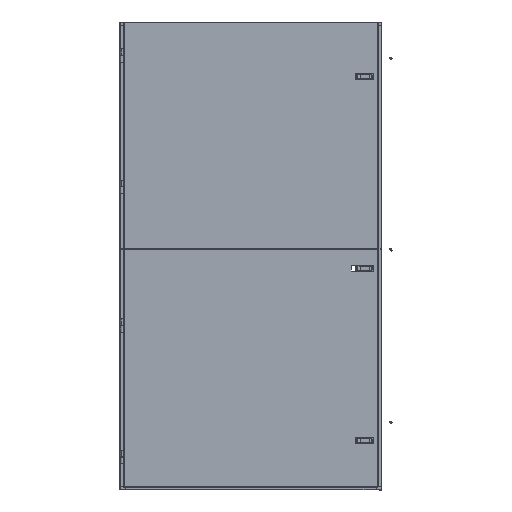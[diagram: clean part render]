
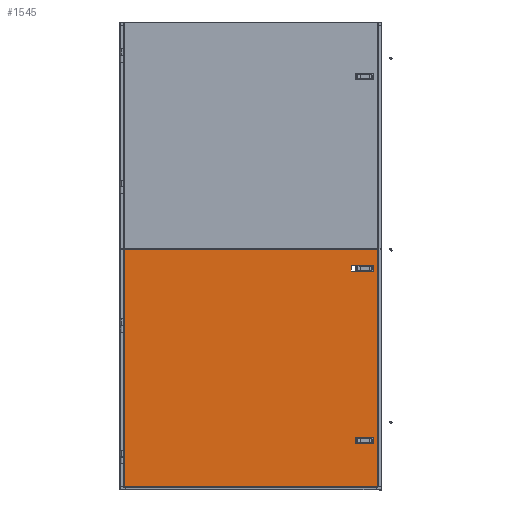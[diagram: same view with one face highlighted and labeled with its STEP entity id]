
A CAD part, top view. The second image highlights one B-rep face of the part: STEP entity #1545.
In plain terms, the highlighted planar face has unit normal (0, 0, -1).
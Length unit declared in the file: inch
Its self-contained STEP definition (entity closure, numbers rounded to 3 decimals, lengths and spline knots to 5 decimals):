
#378 = CARTESIAN_POINT ( 'NONE',  ( 50.10186, 9.99551, 0. ) ) ;
#1157 = EDGE_CURVE ( 'NONE', #18253, #70725, #34404, .T. ) ;
#1538 = CARTESIAN_POINT ( 'NONE',  ( 53.16186, 41.49551, 0. ) ) ;
#1545 = ADVANCED_FACE ( 'NONE', ( #20573, #28443, #61732 ), #71578, .F. ) ;
#1572 = EDGE_CURVE ( 'NONE', #38215, #51061, #25832, .T. ) ;
#2636 = LINE ( 'NONE', #65085, #61912 ) ;
#3431 = ORIENTED_EDGE ( 'NONE', *, *, #13614, .F. ) ;
#3580 = VECTOR ( 'NONE', #44733, 39.37008 ) ;
#3993 = DIRECTION ( 'NONE',  ( 0., -1., 0. ) ) ;
#6607 = CARTESIAN_POINT ( 'NONE',  ( 49.21186, 41.49551, 0. ) ) ;
#7187 = VERTEX_POINT ( 'NONE', #60226 ) ;
#7846 = VECTOR ( 'NONE', #15460, 39.37008 ) ;
#8475 = ORIENTED_EDGE ( 'NONE', *, *, #60444, .F. ) ;
#8810 = EDGE_LOOP ( 'NONE', ( #44716, #3431, #69436, #48530 ) ) ;
#9160 = CARTESIAN_POINT ( 'NONE',  ( 50.10186, 8.99551, 0. ) ) ;
#11639 = LINE ( 'NONE', #20142, #39571 ) ;
#11838 = DIRECTION ( 'NONE',  ( 0., 1., 0. ) ) ;
#12256 = CARTESIAN_POINT ( 'NONE',  ( 49.21186, 40.49551, 0. ) ) ;
#12731 = VERTEX_POINT ( 'NONE', #20865 ) ;
#12878 = CARTESIAN_POINT ( 'NONE',  ( 54.15884, 44.41063, 0. ) ) ;
#13614 = EDGE_CURVE ( 'NONE', #12731, #69854, #17370, .T. ) ;
#14889 = CARTESIAN_POINT ( 'NONE',  ( 54.07396, 1.08038, 0. ) ) ;
#14944 = ORIENTED_EDGE ( 'NONE', *, *, #1572, .F. ) ;
#15460 = DIRECTION ( 'NONE',  ( 0., 1., 0. ) ) ;
#16102 = VECTOR ( 'NONE', #36923, 39.37008 ) ;
#17333 = CARTESIAN_POINT ( 'NONE',  ( 54.15884, 1.08038, 0. ) ) ;
#17370 = LINE ( 'NONE', #17333, #45286 ) ;
#17460 = DIRECTION ( 'NONE',  ( 0., -1., 0. ) ) ;
#18206 = LINE ( 'NONE', #33542, #3580 ) ;
#18253 = VERTEX_POINT ( 'NONE', #60703 ) ;
#19075 = EDGE_CURVE ( 'NONE', #32967, #38215, #22585, .T. ) ;
#19429 = VECTOR ( 'NONE', #29599, 39.37008 ) ;
#19924 = CARTESIAN_POINT ( 'NONE',  ( 53.16186, 41.49551, 0. ) ) ;
#20142 = CARTESIAN_POINT ( 'NONE',  ( 7.77491, 0.99551, 0. ) ) ;
#20573 = FACE_OUTER_BOUND ( 'NONE', #8810, .T. ) ;
#20865 = CARTESIAN_POINT ( 'NONE',  ( 7.77491, 1.08038, 0. ) ) ;
#21706 = ORIENTED_EDGE ( 'NONE', *, *, #1157, .F. ) ;
#22585 = LINE ( 'NONE', #49110, #7846 ) ;
#22941 = DIRECTION ( 'NONE',  ( 1., 0., 0. ) ) ;
#23046 = CARTESIAN_POINT ( 'NONE',  ( 53.16186, 8.99551, 0. ) ) ;
#23918 = ORIENTED_EDGE ( 'NONE', *, *, #46603, .F. ) ;
#24292 = VERTEX_POINT ( 'NONE', #19924 ) ;
#24337 = ORIENTED_EDGE ( 'NONE', *, *, #48555, .F. ) ;
#25505 = CARTESIAN_POINT ( 'NONE',  ( 54.07396, 44.41063, 0. ) ) ;
#25832 = LINE ( 'NONE', #70365, #66959 ) ;
#27511 = VECTOR ( 'NONE', #29730, 39.37008 ) ;
#28443 = FACE_BOUND ( 'NONE', #30165, .T. ) ;
#29339 = EDGE_CURVE ( 'NONE', #51061, #59979, #32126, .T. ) ;
#29599 = DIRECTION ( 'NONE',  ( 0., -1., 0. ) ) ;
#29730 = DIRECTION ( 'NONE',  ( -1., 0., 0. ) ) ;
#30165 = EDGE_LOOP ( 'NONE', ( #8475, #34976, #21706, #24337 ) ) ;
#30340 = VECTOR ( 'NONE', #17460, 39.37008 ) ;
#31610 = DIRECTION ( 'NONE',  ( -1., 0., 0. ) ) ;
#31785 = EDGE_CURVE ( 'NONE', #61939, #67354, #44092, .T. ) ;
#32126 = LINE ( 'NONE', #23046, #30340 ) ;
#32967 = VERTEX_POINT ( 'NONE', #9160 ) ;
#33542 = CARTESIAN_POINT ( 'NONE',  ( 54.07396, 0.99551, 0. ) ) ;
#34285 = LINE ( 'NONE', #57482, #19429 ) ;
#34404 = LINE ( 'NONE', #12256, #64193 ) ;
#34728 = DIRECTION ( 'NONE',  ( 1., 0., 0. ) ) ;
#34976 = ORIENTED_EDGE ( 'NONE', *, *, #38322, .F. ) ;
#36128 = VECTOR ( 'NONE', #34728, 39.37008 ) ;
#36923 = DIRECTION ( 'NONE',  ( -1., 0., 0. ) ) ;
#38215 = VERTEX_POINT ( 'NONE', #378 ) ;
#38322 = EDGE_CURVE ( 'NONE', #70725, #24292, #47442, .T. ) ;
#39571 = VECTOR ( 'NONE', #3993, 39.37008 ) ;
#42524 = CARTESIAN_POINT ( 'NONE',  ( 53.16186, 40.49551, 0. ) ) ;
#44092 = LINE ( 'NONE', #12878, #27511 ) ;
#44716 = ORIENTED_EDGE ( 'NONE', *, *, #57049, .F. ) ;
#44733 = DIRECTION ( 'NONE',  ( 0., 1., 0. ) ) ;
#45286 = VECTOR ( 'NONE', #22941, 39.37008 ) ;
#46603 = EDGE_CURVE ( 'NONE', #59979, #32967, #2636, .T. ) ;
#47346 = CARTESIAN_POINT ( 'NONE',  ( 53.16186, 8.99551, 0. ) ) ;
#47442 = LINE ( 'NONE', #1538, #36128 ) ;
#48530 = ORIENTED_EDGE ( 'NONE', *, *, #31785, .F. ) ;
#48555 = EDGE_CURVE ( 'NONE', #7187, #18253, #60733, .T. ) ;
#49110 = CARTESIAN_POINT ( 'NONE',  ( 50.10186, 8.99551, 0. ) ) ;
#50769 = CARTESIAN_POINT ( 'NONE',  ( 7.77491, 44.41063, 0. ) ) ;
#51060 = ORIENTED_EDGE ( 'NONE', *, *, #19075, .F. ) ;
#51061 = VERTEX_POINT ( 'NONE', #55700 ) ;
#53892 = AXIS2_PLACEMENT_3D ( 'NONE', #71170, #71158, #71099 ) ;
#55700 = CARTESIAN_POINT ( 'NONE',  ( 53.16186, 9.99551, 0. ) ) ;
#57049 = EDGE_CURVE ( 'NONE', #69854, #61939, #18206, .T. ) ;
#57482 = CARTESIAN_POINT ( 'NONE',  ( 53.16186, 40.49551, 0. ) ) ;
#59979 = VERTEX_POINT ( 'NONE', #47346 ) ;
#60226 = CARTESIAN_POINT ( 'NONE',  ( 53.16186, 40.49551, 0. ) ) ;
#60444 = EDGE_CURVE ( 'NONE', #24292, #7187, #34285, .T. ) ;
#60703 = CARTESIAN_POINT ( 'NONE',  ( 49.21186, 40.49551, 0. ) ) ;
#60733 = LINE ( 'NONE', #42524, #16102 ) ;
#61732 = FACE_BOUND ( 'NONE', #62144, .T. ) ;
#61912 = VECTOR ( 'NONE', #31610, 39.37008 ) ;
#61939 = VERTEX_POINT ( 'NONE', #25505 ) ;
#62144 = EDGE_LOOP ( 'NONE', ( #14944, #51060, #23918, #69375 ) ) ;
#63552 = EDGE_CURVE ( 'NONE', #67354, #12731, #11639, .T. ) ;
#64193 = VECTOR ( 'NONE', #11838, 39.37008 ) ;
#65085 = CARTESIAN_POINT ( 'NONE',  ( 53.16186, 8.99551, 0. ) ) ;
#66959 = VECTOR ( 'NONE', #70429, 39.37008 ) ;
#67354 = VERTEX_POINT ( 'NONE', #50769 ) ;
#69375 = ORIENTED_EDGE ( 'NONE', *, *, #29339, .F. ) ;
#69436 = ORIENTED_EDGE ( 'NONE', *, *, #63552, .F. ) ;
#69854 = VERTEX_POINT ( 'NONE', #14889 ) ;
#70365 = CARTESIAN_POINT ( 'NONE',  ( 53.16186, 9.99551, 0. ) ) ;
#70429 = DIRECTION ( 'NONE',  ( 1., 0., 0. ) ) ;
#70725 = VERTEX_POINT ( 'NONE', #6607 ) ;
#71099 = DIRECTION ( 'NONE',  ( 1., 0., 0. ) ) ;
#71158 = DIRECTION ( 'NONE',  ( 0., 0., 1. ) ) ;
#71170 = CARTESIAN_POINT ( 'NONE',  ( 54.15884, 0.99551, 0. ) ) ;
#71578 = PLANE ( 'NONE',  #53892 ) ;
